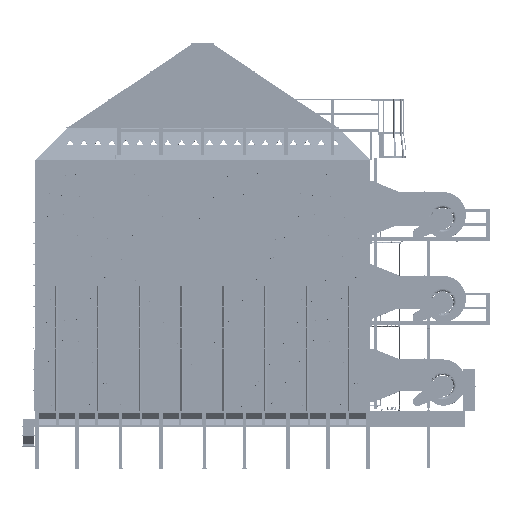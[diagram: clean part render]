
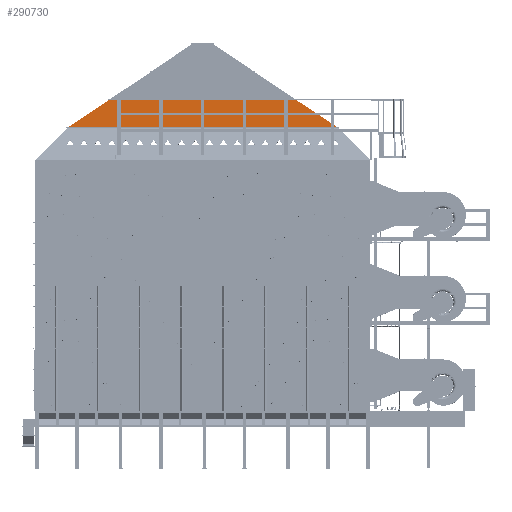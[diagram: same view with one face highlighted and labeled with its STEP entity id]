
A CAD part, top view. The second image highlights one B-rep face of the part: STEP entity #290730.
In plain terms, the highlighted planar face has unit normal (0, 0, 1) as drawn and (0, -1, 0) by its records, which use the part's own axes.
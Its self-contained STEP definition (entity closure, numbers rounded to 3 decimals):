
#45641=FACE_OUTER_BOUND('',#62323,.T.);
#62323=EDGE_LOOP('',(#200048,#200049,#200050,#200051));
#81700=LINE('',#415234,#104971);
#81712=LINE('',#415259,#104983);
#81713=LINE('',#415261,#104984);
#81714=LINE('',#415262,#104985);
#104971=VECTOR('',#337812,0.394);
#104983=VECTOR('',#337836,0.394);
#104984=VECTOR('',#337837,0.394);
#104985=VECTOR('',#337838,0.394);
#127799=VERTEX_POINT('',#415232);
#127800=VERTEX_POINT('',#415233);
#127807=VERTEX_POINT('',#415258);
#127808=VERTEX_POINT('',#415260);
#155696=EDGE_CURVE('',#127799,#127800,#81700,.T.);
#155708=EDGE_CURVE('',#127800,#127807,#81712,.T.);
#155709=EDGE_CURVE('',#127808,#127807,#81713,.T.);
#155710=EDGE_CURVE('',#127808,#127799,#81714,.T.);
#200048=ORIENTED_EDGE('',*,*,#155696,.T.);
#200049=ORIENTED_EDGE('',*,*,#155708,.T.);
#200050=ORIENTED_EDGE('',*,*,#155709,.F.);
#200051=ORIENTED_EDGE('',*,*,#155710,.T.);
#283347=PLANE('',#309097);
#290730=ADVANCED_FACE('',(#45641),#283347,.T.);
#309097=AXIS2_PLACEMENT_3D('',#415257,#337834,#337835);
#337812=DIRECTION('',(1.,0.,0.));
#337834=DIRECTION('center_axis',(0.,-1.,0.));
#337835=DIRECTION('ref_axis',(0.,0.,-1.));
#337836=DIRECTION('',(-0.833,0.,0.553));
#337837=DIRECTION('',(1.,0.,0.));
#337838=DIRECTION('',(-0.833,0.,-0.553));
#415232=CARTESIAN_POINT('',(-154.75,-6.25,4.037));
#415233=CARTESIAN_POINT('',(154.75,-6.25,4.037));
#415234=CARTESIAN_POINT('',(0.,-6.25,4.037));
#415257=CARTESIAN_POINT('Origin',(0.,-6.25,17.609));
#415258=CARTESIAN_POINT('',(106.625,-6.25,36.));
#415259=CARTESIAN_POINT('',(106.625,-6.25,36.));
#415260=CARTESIAN_POINT('',(-106.625,-6.25,36.));
#415261=CARTESIAN_POINT('',(0.,-6.25,36.));
#415262=CARTESIAN_POINT('',(-154.75,-6.25,4.037));
